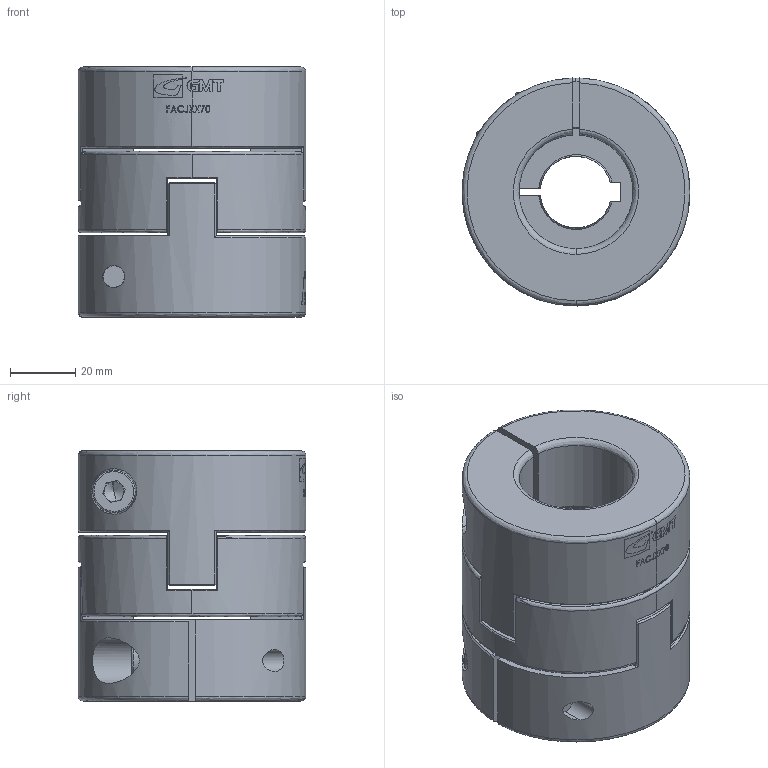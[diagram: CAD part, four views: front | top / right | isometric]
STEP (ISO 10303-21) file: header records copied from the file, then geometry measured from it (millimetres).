
FILE_DESCRIPTION (( 'STEP AP203' ), '1' );
FILE_NAME ('FACJLK70.STEP', '2008-04-04T08:41:15', ( '陳志豪' ), ( '高明鐵企業股份有限公司' ), 'SwSTEP 2.0', 'SolidWorks 2007', '' );
FILE_SCHEMA (( 'CONFIG_CONTROL_DESIGN' ));
Length unit declared in the file: millimetre
Products named in the file (1): FACJLK70
Bounding box: 70 x 70 x 77 mm (x, y, z)
Surface area: 48756.5 mm2 (no closed solid volume)
Topology: 0 solids, 6 shells, 272 faces, 907 edges, 643 vertices
Faces by surface type: plane 113, cylinder 64, bspline 64, cone 31
Entity records: 15740 total; most frequent: CARTESIAN_POINT 8973, ORIENTED_EDGE 1710, EDGE_CURVE 891, DIRECTION 859, VERTEX_POINT 639, B_SPLINE_CURVE_WITH_KNOTS 517, EDGE_LOOP 308, AXIS2_PLACEMENT_3D 293
